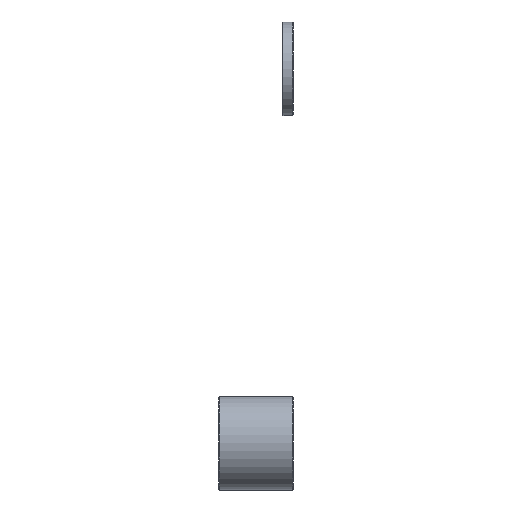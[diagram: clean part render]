
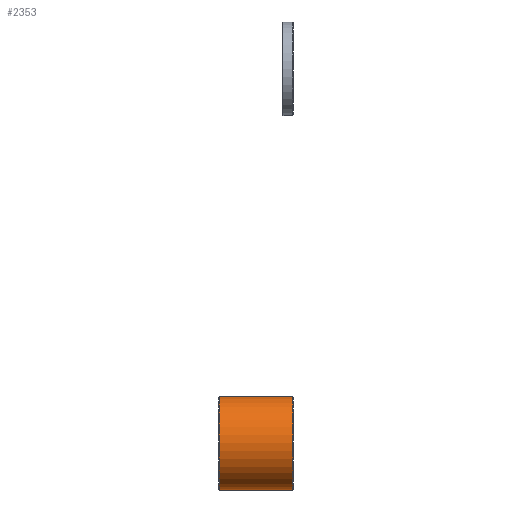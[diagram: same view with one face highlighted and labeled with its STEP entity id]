
A CAD part, left-side view. The second image highlights one B-rep face of the part: STEP entity #2353.
In plain terms, the highlighted cylindrical face has radius 12.5 mm (diameter 25 mm), a partial arc.
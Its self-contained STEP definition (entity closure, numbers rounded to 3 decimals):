
#40 = CARTESIAN_POINT ( 'NONE',  ( 0., 0.2, 12.5 ) ) ;
#80 = DIRECTION ( 'NONE',  ( 0., -1., 0. ) ) ;
#99 = VERTEX_POINT ( 'NONE', #1193 ) ;
#196 = CARTESIAN_POINT ( 'NONE',  ( 0., 20., 12.5 ) ) ;
#243 = EDGE_CURVE ( 'NONE', #1623, #99, #2488, .T. ) ;
#309 = CARTESIAN_POINT ( 'NONE',  ( 0., 20., 0. ) ) ;
#327 = CARTESIAN_POINT ( 'NONE',  ( 0., 20., -12.5 ) ) ;
#366 = CARTESIAN_POINT ( 'NONE',  ( 0., 0.2, 0. ) ) ;
#488 = EDGE_LOOP ( 'NONE', ( #2461, #615, #2768, #1812 ) ) ;
#589 = DIRECTION ( 'NONE',  ( 0., 0., 1. ) ) ;
#615 = ORIENTED_EDGE ( 'NONE', *, *, #1130, .T. ) ;
#727 = DIRECTION ( 'NONE',  ( 0., -1., 0. ) ) ;
#866 = AXIS2_PLACEMENT_3D ( 'NONE', #309, #80, #1446 ) ;
#1014 = DIRECTION ( 'NONE',  ( 0., -1., 0. ) ) ;
#1130 = EDGE_CURVE ( 'NONE', #2338, #1623, #1779, .T. ) ;
#1171 = VERTEX_POINT ( 'NONE', #40 ) ;
#1177 = LINE ( 'NONE', #196, #1712 ) ;
#1193 = CARTESIAN_POINT ( 'NONE',  ( 0., 0.2, -12.5 ) ) ;
#1284 = VECTOR ( 'NONE', #1014, 1000. ) ;
#1328 = AXIS2_PLACEMENT_3D ( 'NONE', #2075, #727, #2313 ) ;
#1446 = DIRECTION ( 'NONE',  ( 0., 0., -1. ) ) ;
#1623 = VERTEX_POINT ( 'NONE', #2478 ) ;
#1712 = VECTOR ( 'NONE', #1790, 1000. ) ;
#1779 = CIRCLE ( 'NONE', #1328, 12.5 ) ;
#1790 = DIRECTION ( 'NONE',  ( 0., -1., 0. ) ) ;
#1812 = ORIENTED_EDGE ( 'NONE', *, *, #2503, .T. ) ;
#1945 = DIRECTION ( 'NONE',  ( 0., 1., 0. ) ) ;
#1977 = EDGE_CURVE ( 'NONE', #2338, #1171, #1177, .T. ) ;
#2075 = CARTESIAN_POINT ( 'NONE',  ( 0., 19.8, 0. ) ) ;
#2111 = CARTESIAN_POINT ( 'NONE',  ( 0., 19.8, 12.5 ) ) ;
#2211 = FACE_OUTER_BOUND ( 'NONE', #488, .T. ) ;
#2235 = AXIS2_PLACEMENT_3D ( 'NONE', #366, #1945, #589 ) ;
#2313 = DIRECTION ( 'NONE',  ( 0., 0., 1. ) ) ;
#2338 = VERTEX_POINT ( 'NONE', #2111 ) ;
#2353 = ADVANCED_FACE ( 'NONE', ( #2211 ), #2751, .T. ) ;
#2461 = ORIENTED_EDGE ( 'NONE', *, *, #1977, .F. ) ;
#2478 = CARTESIAN_POINT ( 'NONE',  ( 0., 19.8, -12.5 ) ) ;
#2488 = LINE ( 'NONE', #327, #1284 ) ;
#2503 = EDGE_CURVE ( 'NONE', #99, #1171, #2524, .T. ) ;
#2524 = CIRCLE ( 'NONE', #2235, 12.5 ) ;
#2751 = CYLINDRICAL_SURFACE ( 'NONE', #866, 12.5 ) ;
#2768 = ORIENTED_EDGE ( 'NONE', *, *, #243, .T. ) ;
